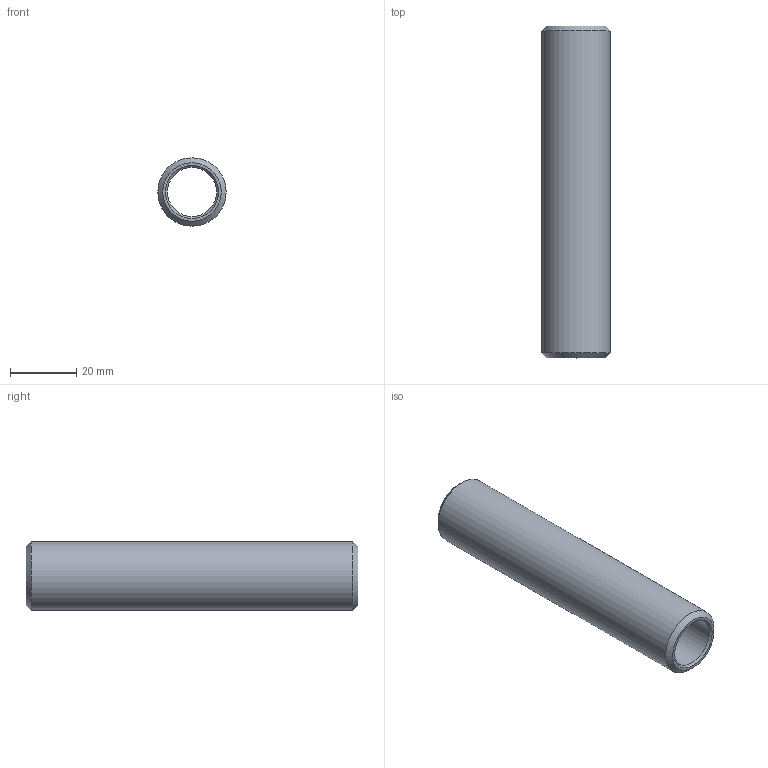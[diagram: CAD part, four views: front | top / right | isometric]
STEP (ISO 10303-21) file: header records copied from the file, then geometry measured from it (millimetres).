
FILE_DESCRIPTION(('STEP AP203'), '1');
FILE_NAME('ÂÐ.715241.005 - VTr.652.N.0415 Áî÷. ðåçüá. G1-2 L150', '2024-07-11T08:35:26', ('User'), ('Vesta'), 'C3D Converter', 'C3D Toolkit', '');
FILE_SCHEMA(('CONFIG_CONTROL_DESIGN'));
Length unit declared in the file: millimetre
Products named in the file (1): ВР.715241.005
Bounding box: 20.6 x 100 x 20.6 mm (x, y, z)
Volume: 15970.1 mm3; surface area: 11292.4 mm2
Topology: 1 solids, 1 shells, 8 faces, 14 edges, 8 vertices
Faces by surface type: cone 4, plane 2, cylinder 2
Full cylindrical faces by diameter (mm): 14.8 x1, 20.6 x1
Entity records: 199 total; most frequent: DIRECTION 34, CARTESIAN_POINT 25, AXIS2_PLACEMENT_3D 17, EDGE_LOOP 16, ORIENTED_EDGE 16, FACE_OUTER_BOUND 12, ADVANCED_FACE 8, EDGE_CURVE 8
